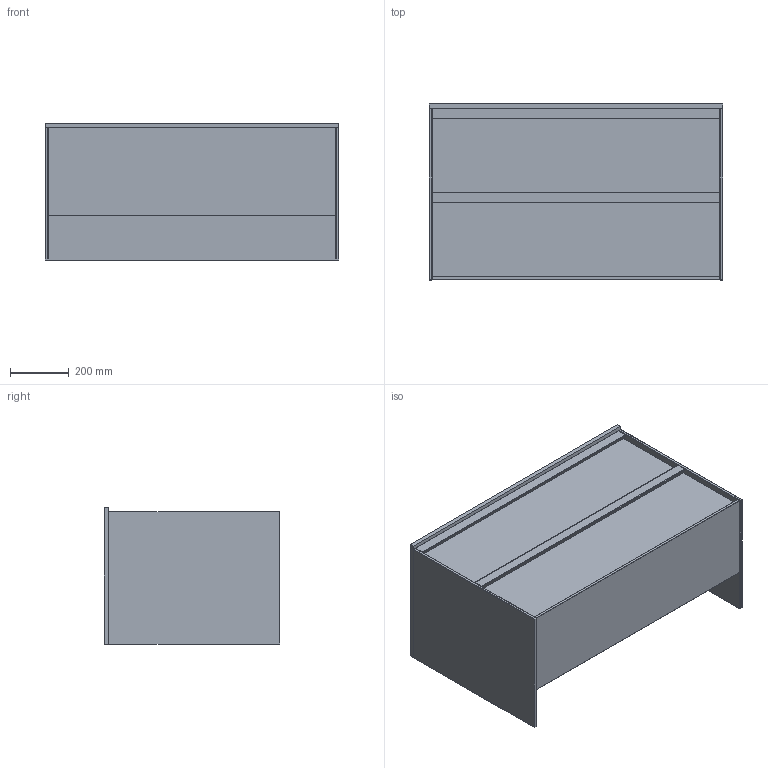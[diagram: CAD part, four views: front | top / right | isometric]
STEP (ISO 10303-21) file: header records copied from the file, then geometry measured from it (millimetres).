
FILE_DESCRIPTION (( 'STEP AP203' ), '1' );
FILE_NAME ('H2-Kommod-100-shell-drawing.STEP', '2024-10-23T06:47:42', ( '' ), ( '' ), 'SwSTEP 2.0', 'SolidWorks 2024', '' );
FILE_SCHEMA (( 'CONFIG_CONTROL_DESIGN' ));
Length unit declared in the file: millimetre
Products named in the file (6): lådfront-980x287x10; handtag-980x35x20; Sida-584x452x10; Stenskiva-1000x465x15; Botten-980x300x10; H2-Kommod-100-shell-drawing
Assembly tree (8 placements, depth 2):
  H2-Kommod-100-shell-drawing
    Botten-980x300x10
    handtag-980x35x20  x2
    lådfront-980x287x10  x2
    Sida-584x452x10  x2
    Stenskiva-1000x465x15
Bounding box: 1000 x 599 x 465 mm (x, y, z)
Volume: 21988241.2 mm3; surface area: 4048943.8 mm2
Topology: 8 solids, 8 shells, 188 faces, 406 edges, 178 vertices
Faces by surface type: cylinder 84, sphere 56, plane 48
Entity records: 3364 total; most frequent: DIRECTION 542, CARTESIAN_POINT 429, ORIENTED_EDGE 408, AXIS2_PLACEMENT_3D 217, EDGE_CURVE 204, EDGE_LOOP 110, FACE_OUTER_BOUND 110, ADVANCED_FACE 110
